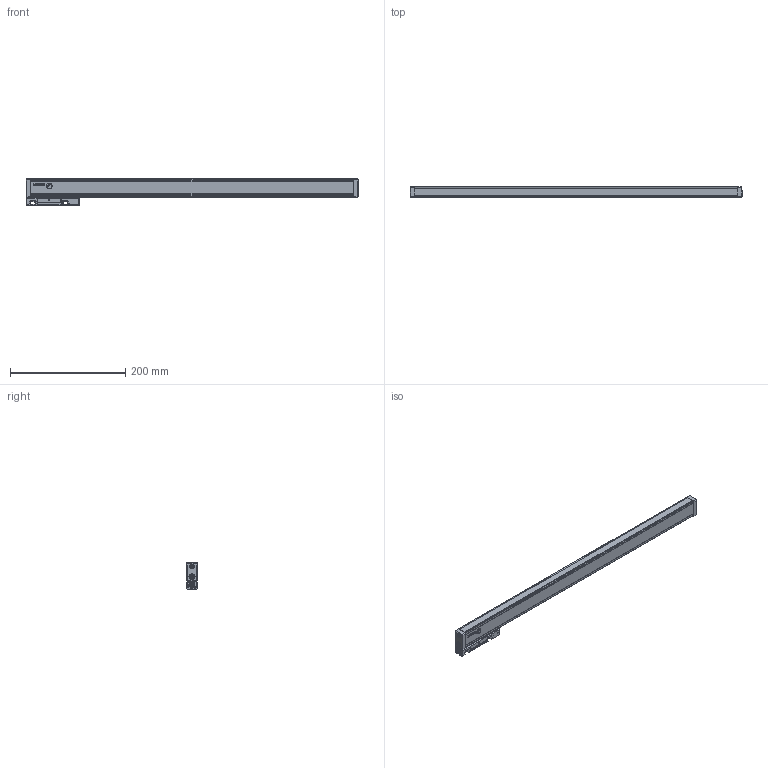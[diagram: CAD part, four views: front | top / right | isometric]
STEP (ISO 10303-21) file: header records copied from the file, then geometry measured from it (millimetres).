
FILE_DESCRIPTION(('Creo Elements/Direct Modeling STEP Export'),'2;1');
FILE_NAME('REGLA_SV3-470.stp','2020-10-30T12:26:39',(''),(''),'Creo Elements/Direct Modeling STEP processor for AP214 (Solid Model)','Creo Elements/Direct Modeling 19.0G 27-Nov-2017 (C) Parametric Technology GmbH','');
FILE_SCHEMA(('AUTOMOTIVE_DESIGN { 1 0 10303 214 1 1 1 1 }'));
Length unit declared in the file: millimetre
Products named in the file (4): PERFIL_REGLA_SV3-470; CABEZA_RANURADA_REGLA_S3
Assembly tree (2 placements, depth 2):
  PERFIL_REGLA_SV3-470
    PERFIL_REGLA_SV3-470
  CABEZA_RANURADA_REGLA_S3
    CABEZA_RANURADA_REGLA_S3
Bounding box: 575 x 18.3 x 46.2 mm (x, y, z)
Volume: 328414.6 mm3; surface area: 81635.9 mm2
Topology: 2 solids, 25 shells, 1508 faces, 4919 edges, 3517 vertices
Faces by surface type: plane 988, cylinder 369, cone 134, bspline 9, torus 8
Entity records: 63844 total; most frequent: CARTESIAN_POINT 12641, ORIENTED_EDGE 9818, DIRECTION 7788, EDGE_CURVE 4907, VECTOR 3690, LINE 3690, VERTEX_POINT 3517, AXIS2_PLACEMENT_3D 2049
